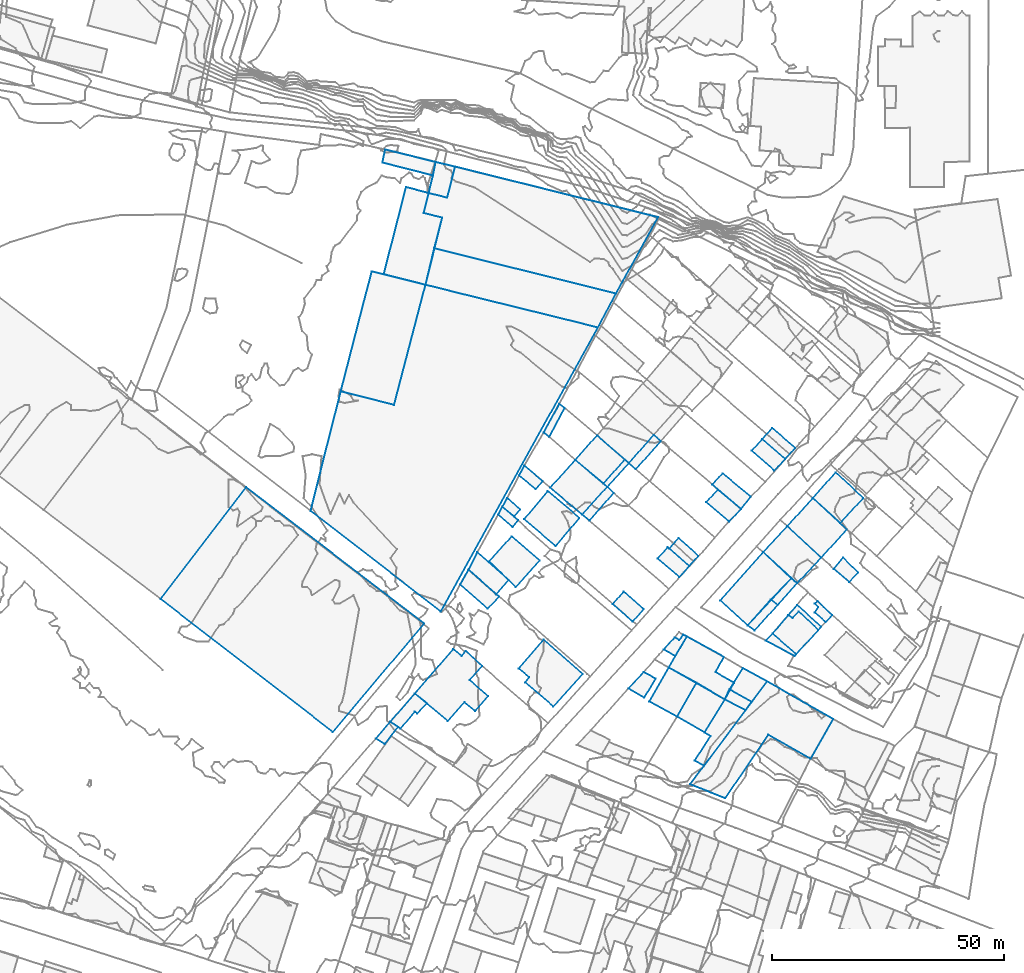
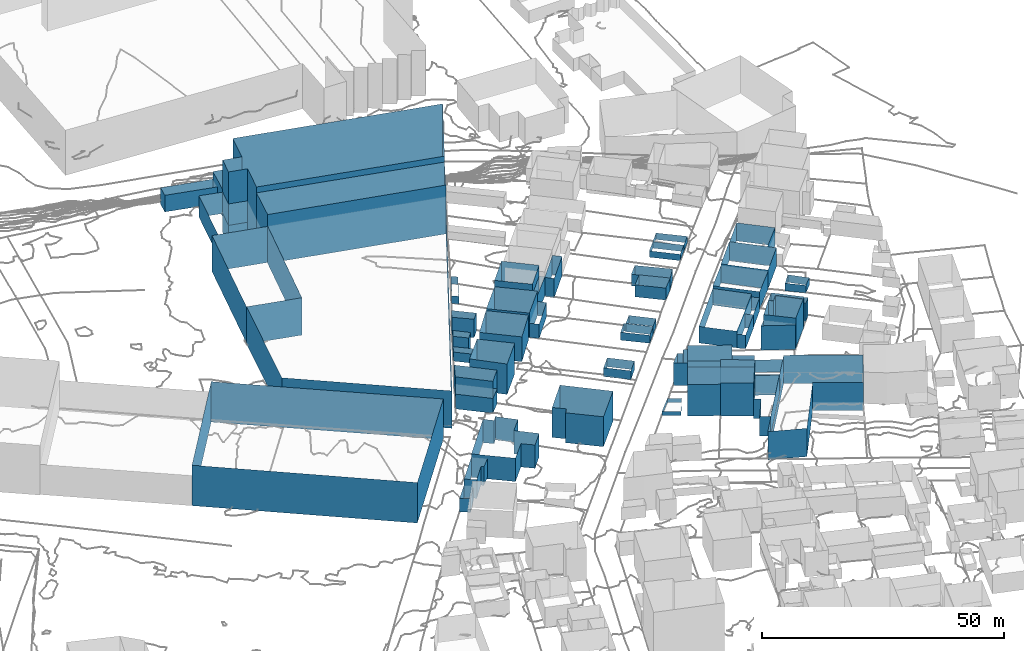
# Not in any storey, part 52 of 419: 52 walls.
"""IFC2X3 model written with IfcOpenShell, lengths in metres."""

from ifc_helpers import new_model, si_unit, frame, origin_with_axes, place, context, subcontext, project, faceted_brep, element, save


model = new_model("IFC2X3")

# Units and contexts
model_context = context("Model", 3, precision=1e-05, world=origin_with_axes())
body_context = subcontext(model_context, "Body", "Model", "MODEL_VIEW")
ifc_project = project(units=[si_unit("AREAUNIT", "SQUARE_METRE"), si_unit("LENGTHUNIT", "METRE")], contexts=[model_context])

# Walls
wall_1_placement = place(None, frame((943.8920204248, 250.5976909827, 79.4043981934), z_axis=(0.0, 0.0, 1.0), x_axis=(1.0, 0.0, 0.0)))
element("IfcWall", 1, at=wall_1_placement, Name="Mur 0", context=body_context, shape_type="Brep", body=[
    faceted_brep([(0.8999999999, -0.6000000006, 7.3956018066), (0.0, 0.0, 7.3956018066), (0.8999999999, -0.6000000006, 0.0), (0.0, 0.0, 0.0), (2.2, 0.7999999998, 7.3956018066), (2.2, 0.7999999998, 0.0), (6.5, -3.2000000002, 7.3956018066), (6.5, -3.2000000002, 0.0), (7.1, -2.5, 7.3956018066), (7.1, -2.5, 0.0), (1.8999999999, 2.2000000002, 7.3956018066), (1.8999999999, 2.2000000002, 0.0)], [[[0, 1, 2]], [[2, 1, 3]], [[4, 0, 5]], [[5, 0, 2]], [[6, 4, 7]], [[7, 4, 5]], [[8, 6, 9]], [[9, 6, 7]], [[1, 10, 3]], [[3, 10, 11]], [[10, 8, 11]], [[11, 8, 9]]]),
])
wall_2_placement = place(None, frame((909.3920204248, 234.7976909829, 79.4479989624), z_axis=(0.0, 0.0, 1.0), x_axis=(1.0, 0.0, 0.0)))
element("IfcWall", 2, at=wall_2_placement, Name="Mur 0", context=body_context, shape_type="Brep", body=[
    faceted_brep([(0.0, 0.0, 1.0520010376), (3.2999999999, 3.5, 1.0520010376), (0.0, 0.0, 0.0), (3.2999999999, 3.5, 0.0), (3.3999999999, -2.0, 1.0520010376), (3.3999999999, -2.0, 0.0), (5.8999999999, 2.0999999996, 1.0520010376), (5.8999999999, 2.0999999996, 0.0)], [[[0, 1, 2]], [[2, 1, 3]], [[4, 0, 5]], [[5, 0, 2]], [[1, 6, 3]], [[3, 6, 7]], [[6, 4, 7]], [[7, 4, 5]]]),
])
wall_3_placement = place(None, frame((922.6920204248, 214.0976909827, 76.1770995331), z_axis=(0.0, 0.0, 1.0), x_axis=(1.0, 0.0, 0.0)))
element("IfcWall", 3, at=wall_3_placement, Name="Mur 0", context=body_context, shape_type="Brep", body=[
    faceted_brep([(16.6, 22.2000000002, 7.1229004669), (30.9, 14.0999999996, 7.1229004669), (16.6, 22.2000000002, 0.0), (30.9, 14.0999999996, 0.0), (0.0, 0.0, 7.1229004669), (0.0, 0.0, 0.0), (7.6, -3.0, 7.1229004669), (7.6, -3.0, 0.0), (16.9, 10.7000000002, 7.1229004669), (16.9, 10.7000000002, 0.0), (26.0, 5.5, 7.1229004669), (26.0, 5.5, 0.0)], [[[0, 1, 2]], [[2, 1, 3]], [[4, 0, 5]], [[5, 0, 2]], [[6, 4, 7]], [[7, 4, 5]], [[8, 6, 9]], [[9, 6, 7]], [[1, 10, 3]], [[3, 10, 11]], [[10, 8, 11]], [[11, 8, 9]]]),
])
wall_4_placement = place(None, frame((865.1920204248, 337.3976909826, 75.976000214), z_axis=(0.0, 0.0, 1.0), x_axis=(1.0, 0.0, 0.0)))
element("IfcWall", 4, at=wall_4_placement, Name="Mur 0", context=body_context, shape_type="Brep", body=[
    faceted_brep([(0.0, 0.0, 18.223999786), (1.1, 4.2999999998, 18.223999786), (0.0, 0.0, 0.0), (1.1, 4.2999999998, 0.0), (4.0, -1.0, 18.223999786), (4.0, -1.0, 0.0), (2.3, -7.5999999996, 18.223999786), (2.3, -7.5999999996, 0.0), (41.5, -17.4000000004, 18.223999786), (41.5, -17.4000000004, 0.0), (50.6, -0.9000000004, 18.223999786), (50.6, -0.9000000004, 0.0), (6.8, 10.0, 18.223999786), (6.8, 10.0, 0.0), (5.1, 3.2999999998, 18.223999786), (5.1, 3.2999999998, 0.0)], [[[0, 1, 2]], [[2, 1, 3]], [[4, 0, 5]], [[5, 0, 2]], [[6, 4, 7]], [[7, 4, 5]], [[8, 6, 9]], [[9, 6, 7]], [[10, 8, 11]], [[11, 8, 9]], [[12, 10, 13]], [[13, 10, 11]], [[1, 14, 3]], [[3, 14, 15]], [[14, 12, 15]], [[15, 12, 13]]]),
])
wall_5_placement = place(None, frame((885.6920204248, 239.0976909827, 79.6380020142), z_axis=(0.0, 0.0, 1.0), x_axis=(1.0, 0.0, 0.0)))
element("IfcWall", 5, at=wall_5_placement, Name="Mur 0", context=body_context, shape_type="Brep", body=[
    faceted_brep([(0.0, 0.0, 7.5619979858), (5.4, 6.2000000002, 7.5619979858), (0.0, 0.0, 0.0), (5.4, 6.2000000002, 0.0), (2.3, -1.9000000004, 7.5619979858), (2.3, -1.9000000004, 0.0), (1.4, -3.0, 7.5619979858), (1.4, -3.0, 0.0), (7.5, -8.2000000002, 7.5619979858), (7.5, -8.2000000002, 0.0), (13.8, -1.2000000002, 7.5619979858), (13.8, -1.2000000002, 0.0)], [[[0, 1, 2]], [[2, 1, 3]], [[4, 0, 5]], [[5, 0, 2]], [[6, 4, 7]], [[7, 4, 5]], [[8, 6, 9]], [[9, 6, 7]], [[1, 10, 3]], [[3, 10, 11]], [[10, 8, 11]], [[11, 8, 9]]]),
])
wall_6_placement = place(None, frame((915.6920204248, 262.7976909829, 79.3039978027), z_axis=(0.0, 0.0, 1.0), x_axis=(1.0, 0.0, 0.0)))
element("IfcWall", 6, at=wall_6_placement, Name="Mur 0", context=body_context, shape_type="Brep", body=[
    faceted_brep([(2.2000000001, 2.5, 1.9960021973), (6.8, -1.6000000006, 1.9960021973), (2.2000000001, 2.5, 0.0), (6.8, -1.6000000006, 0.0), (0.0, 0.0, 1.9960021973), (0.0, 0.0, 0.0), (4.7000000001, -4.0, 1.9960021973), (4.7000000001, -4.0, 0.0)], [[[0, 1, 2]], [[2, 1, 3]], [[4, 0, 5]], [[5, 0, 2]], [[1, 6, 3]], [[3, 6, 7]], [[6, 4, 7]], [[7, 4, 5]]]),
])
wall_7_placement = place(None, frame((935.9920204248, 286.0976909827, 79.0081993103), z_axis=(0.0, 0.0, 1.0), x_axis=(1.0, 0.0, 0.0)))
element("IfcWall", 7, at=wall_7_placement, Name="Mur 0", context=body_context, shape_type="Brep", body=[
    faceted_brep([(2.2999999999, 2.5, 1.5918006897), (7.2, -1.7999999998, 1.5918006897), (2.2999999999, 2.5, 0.0), (7.2, -1.7999999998, 0.0), (0.0, 0.0, 1.5918006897), (0.0, 0.0, 0.0), (4.9, -4.2999999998, 1.5918006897), (4.9, -4.2999999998, 0.0)], [[[0, 1, 2]], [[2, 1, 3]], [[4, 0, 5]], [[5, 0, 2]], [[1, 6, 3]], [[3, 6, 7]], [[6, 4, 7]], [[7, 4, 5]]]),
])
wall_8_placement = place(None, frame((857.9920204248, 227.5976909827, 81.0899978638), z_axis=(0.0, 0.0, 1.0), x_axis=(1.0, 0.0, 0.0)))
element("IfcWall", 8, at=wall_8_placement, Name="Mur 0", context=body_context, shape_type="Brep", body=[
    faceted_brep([(5.2999999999, 6.0999999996, 4.7100021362), (7.9, 4.0, 4.7100021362), (5.2999999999, 6.0999999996, 0.0), (7.9, 4.0, 0.0), (0.0, 0.0, 4.7100021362), (0.0, 0.0, 0.0), (2.2, -1.5, 4.7100021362), (2.2, -1.5, 0.0), (5.2999999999, 2.2000000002, 4.7100021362), (5.2999999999, 2.2000000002, 0.0), (5.7999999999, 1.7999999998, 4.7100021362), (5.7999999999, 1.7999999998, 0.0)], [[[0, 1, 2]], [[2, 1, 3]], [[4, 0, 5]], [[5, 0, 2]], [[6, 4, 7]], [[7, 4, 5]], [[8, 6, 9]], [[9, 6, 7]], [[1, 10, 3]], [[3, 10, 11]], [[10, 8, 11]], [[11, 8, 9]]]),
])
wall_9_placement = place(None, frame((873.0920204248, 257.1976909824, 80.2699981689), z_axis=(0.0, 0.0, 1.0), x_axis=(1.0, 0.0, 0.0)))
element("IfcWall", 9, at=wall_9_placement, Name="Mur 0", context=body_context, shape_type="Brep", body=[
    faceted_brep([(0.0, 0.0, 3.7300018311), (1.8, 3.2000000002, 3.7300018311), (0.0, 0.0, 0.0), (1.8, 3.2000000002, 0.0), (5.9, -5.2000000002, 3.7300018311), (5.9, -5.2000000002, 0.0), (8.4, -2.5999999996, 3.7300018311), (8.4, -2.5999999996, 0.0)], [[[0, 1, 2]], [[2, 1, 3]], [[4, 0, 5]], [[5, 0, 2]], [[1, 6, 3]], [[3, 6, 7]], [[6, 4, 7]], [[7, 4, 5]]]),
])
wall_10_placement = place(None, frame((808.3920204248, 254.0976909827, 80.3899993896), z_axis=(0.0, 0.0, 1.0), x_axis=(1.0, 0.0, 0.0)))
element("IfcWall", 10, at=wall_10_placement, Name="Mur 0", context=body_context, shape_type="Brep", body=[
    faceted_brep([(0.0, 0.0, 10.2100006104), (18.5, 24.0999999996, 10.2100006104), (0.0, 0.0, 0.0), (18.5, 24.0999999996, 0.0), (37.2, -28.7000000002, 10.2100006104), (37.2, -28.7000000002, 0.0), (56.8999999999, -5.2999999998, 10.2100006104), (56.8999999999, -5.2999999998, 0.0)], [[[0, 1, 2]], [[2, 1, 3]], [[4, 0, 5]], [[5, 0, 2]], [[1, 6, 3]], [[3, 6, 7]], [[6, 4, 7]], [[7, 4, 5]]]),
])
wall_11_placement = place(None, frame((938.9920204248, 245.0976909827, 79.3228012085), z_axis=(0.0, 0.0, 1.0), x_axis=(1.0, 0.0, 0.0)))
element("IfcWall", 11, at=wall_11_placement, Name="Mur 0", context=body_context, shape_type="Brep", body=[
    faceted_brep([(6.2999999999, -3.2999999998, 6.1771987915), (0.0, 0.0, 6.1771987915), (6.2999999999, -3.2999999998, 0.0), (0.0, 0.0, 0.0), (6.6, -2.9000000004, 6.1771987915), (6.6, -2.9000000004, 0.0), (1.5, 1.5, 6.1771987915), (1.5, 1.5, 0.0)], [[[0, 1, 2]], [[2, 1, 3]], [[4, 0, 5]], [[5, 0, 2]], [[1, 6, 3]], [[3, 6, 7]], [[6, 4, 7]], [[7, 4, 5]]]),
])
wall_12_placement = place(None, frame((913.8920204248, 231.9976909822, 79.4660003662), z_axis=(0.0, 0.0, 1.0), x_axis=(1.0, 0.0, 0.0)))
element("IfcWall", 12, at=wall_12_placement, Name="Mur 0", context=body_context, shape_type="Brep", body=[
    faceted_brep([(10.2, 4.0, 7.9339996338), (6.0, -3.2999999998, 7.9339996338), (10.2, 4.0, 0.0), (6.0, -3.2999999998, 0.0), (4.2, 7.3000000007, 7.9339996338), (4.2, 7.3000000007, 0.0), (0.0, 0.0, 7.9339996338), (0.0, 0.0, 0.0)], [[[0, 1, 2]], [[2, 1, 3]], [[4, 0, 5]], [[5, 0, 2]], [[1, 6, 3]], [[3, 6, 7]], [[6, 4, 7]], [[7, 4, 5]]]),
])
wall_13_placement = place(None, frame((949.1920204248, 275.8976909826, 79.6199989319), z_axis=(0.0, 0.0, 1.0), x_axis=(1.0, 0.0, 0.0)))
element("IfcWall", 13, at=wall_13_placement, Name="Mur 0", context=body_context, shape_type="Brep", body=[
    faceted_brep([(5.9, -5.4000000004, 4.5800010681), (0.0, 0.0, 4.5800010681), (5.9, -5.4000000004, 0.0), (0.0, 0.0, 0.0), (10.9, 0.0, 4.5800010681), (10.9, 0.0, 0.0), (4.9, 5.5, 4.5800010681), (4.9, 5.5, 0.0)], [[[0, 1, 2]], [[2, 1, 3]], [[4, 0, 5]], [[5, 0, 2]], [[1, 6, 3]], [[3, 6, 7]], [[6, 4, 7]], [[7, 4, 5]]]),
])
wall_14_placement = place(None, frame((865.5920204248, 321.8976909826, 80.3578001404), z_axis=(0.0, 0.0, 1.0), x_axis=(1.0, 0.0, 0.0)))
element("IfcWall", 14, at=wall_14_placement, Name="Mur 0", context=body_context, shape_type="Brep", body=[
    faceted_brep([(0.0, 0.0, 12.3421998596), (1.9, 7.9000000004, 12.3421998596), (0.0, 0.0, 0.0), (1.9, 7.9000000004, 0.0), (37.2, -9.2000000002, 12.3421998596), (37.2, -9.2000000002, 0.0), (41.1, -1.9000000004, 12.3421998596), (41.1, -1.9000000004, 0.0)], [[[0, 1, 2]], [[2, 1, 3]], [[4, 0, 5]], [[5, 0, 2]], [[1, 6, 3]], [[3, 6, 7]], [[6, 4, 7]], [[7, 4, 5]]]),
])
wall_15_placement = place(None, frame((943.6920204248, 269.7976909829, 79.72599823), z_axis=(0.0, 0.0, 1.0), x_axis=(1.0, 0.0, 0.0)))
element("IfcWall", 15, at=wall_15_placement, Name="Mur 0", context=body_context, shape_type="Brep", body=[
    faceted_brep([(7.3, -6.8000000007, 4.77400177), (0.0, 0.0, 4.77400177), (7.3, -6.8000000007, 0.0), (0.0, 0.0, 0.0), (12.8, -0.7000000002, 4.77400177), (12.8, -0.7000000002, 0.0), (5.5, 6.0999999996, 4.77400177), (5.5, 6.0999999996, 0.0)], [[[0, 1, 2]], [[2, 1, 3]], [[4, 0, 5]], [[5, 0, 2]], [[1, 6, 3]], [[3, 6, 7]], [[6, 4, 7]], [[7, 4, 5]]]),
])
wall_16_placement = place(None, frame((892.4920204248, 278.0976909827, 79.9392015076), z_axis=(0.0, 0.0, 1.0), x_axis=(1.0, 0.0, 0.0)))
element("IfcWall", 16, at=wall_16_placement, Name="Mur 0", context=body_context, shape_type="Brep", body=[
    faceted_brep([(0.0, 0.0, 6.1607984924), (5.4, 6.0, 6.1607984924), (0.0, 0.0, 0.0), (5.4, 6.0, 0.0), (6.9, -5.7999999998, 6.1607984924), (6.9, -5.7999999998, 0.0), (12.2999999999, 0.2000000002, 6.1607984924), (12.2999999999, 0.2000000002, 0.0)], [[[0, 1, 2]], [[2, 1, 3]], [[4, 0, 5]], [[5, 0, 2]], [[1, 6, 3]], [[3, 6, 7]], [[6, 4, 7]], [[7, 4, 5]]]),
])
wall_17_placement = place(None, frame((926.1920204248, 274.9976909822, 79.1666029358), z_axis=(0.0, 0.0, 1.0), x_axis=(1.0, 0.0, 0.0)))
element("IfcWall", 17, at=wall_17_placement, Name="Mur 0", context=body_context, shape_type="Brep", body=[
    faceted_brep([(2.5, 2.7000000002, 3.0333970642), (7.5, -1.5, 3.0333970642), (2.5, 2.7000000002, 0.0), (7.5, -1.5, 0.0), (0.0, 0.0, 3.0333970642), (0.0, 0.0, 0.0), (4.9, -4.1999999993, 3.0333970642), (4.9, -4.1999999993, 0.0)], [[[0, 1, 2]], [[2, 1, 3]], [[4, 0, 5]], [[5, 0, 2]], [[1, 6, 3]], [[3, 6, 7]], [[6, 4, 7]], [[7, 4, 5]]]),
])
wall_18_placement = place(None, frame((935.0920204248, 248.3976909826, 79.2480003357), z_axis=(0.0, 0.0, 1.0), x_axis=(1.0, 0.0, 0.0)))
element("IfcWall", 18, at=wall_18_placement, Name="Mur 0", context=body_context, shape_type="Brep", body=[
    faceted_brep([(1.5, -1.0999999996, 3.4519996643), (0.0, 0.0, 3.4519996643), (1.5, -1.0999999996, 0.0), (0.0, 0.0, 0.0), (6.5, 4.4000000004, 3.4519996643), (6.5, 4.4000000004, 0.0), (5.0, 5.5999999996, 3.4519996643), (5.0, 5.5999999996, 0.0)], [[[0, 1, 2]], [[2, 1, 3]], [[4, 0, 5]], [[5, 0, 2]], [[1, 6, 3]], [[3, 6, 7]], [[6, 4, 7]], [[7, 4, 5]]]),
])
wall_19_placement = place(None, frame((840.7920204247, 273.0976909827, 80.3578001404), z_axis=(0.0, 0.0, 1.0), x_axis=(1.0, 0.0, 0.0)))
element("IfcWall", 19, at=wall_19_placement, Name="Mur 0", context=body_context, shape_type="Brep", body=[
    faceted_brep([(28.1000000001, -21.7000000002, 9.4421998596), (0.0, 0.0, 9.4421998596), (28.1000000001, -21.7000000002, 0.0), (0.0, 0.0, 0.0), (62.0, 39.5999999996, 9.4421998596), (62.0, 39.5999999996, 0.0), (24.8, 48.7999999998, 9.4421998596), (24.8, 48.7999999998, 0.0), (18.0, 22.8999999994, 9.4421998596), (18.0, 22.8999999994, 0.0), (6.5, 25.7999999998, 9.4421998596), (6.5, 25.7999999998, 0.0)], [[[0, 1, 2]], [[2, 1, 3]], [[4, 0, 5]], [[5, 0, 2]], [[6, 4, 7]], [[7, 4, 5]], [[8, 6, 9]], [[9, 6, 7]], [[1, 10, 3]], [[3, 10, 11]], [[10, 8, 11]], [[11, 8, 9]]]),
])
wall_20_placement = place(None, frame((938.2920204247, 288.5976909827, 78.9566001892), z_axis=(0.0, 0.0, 1.0), x_axis=(1.0, 0.0, 0.0)))
element("IfcWall", 20, at=wall_20_placement, Name="Mur 0", context=body_context, shape_type="Brep", body=[
    faceted_brep([(2.1000000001, 2.3999999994, 1.6433998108), (7.1000000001, -1.9000000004, 1.6433998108), (2.1000000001, 2.3999999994, 0.0), (7.1000000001, -1.9000000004, 0.0), (0.0, 0.0, 1.6433998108), (0.0, 0.0, 0.0), (4.9, -4.2999999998, 1.6433998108), (4.9, -4.2999999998, 0.0)], [[[0, 1, 2]], [[2, 1, 3]], [[4, 0, 5]], [[5, 0, 2]], [[1, 6, 3]], [[3, 6, 7]], [[6, 4, 7]], [[7, 4, 5]]]),
])
wall_21_placement = place(None, frame((854.8920204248, 223.9976909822, 80.7520005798), z_axis=(0.0, 0.0, 1.0), x_axis=(1.0, 0.0, 0.0)))
element("IfcWall", 21, at=wall_21_placement, Name="Mur 0", context=body_context, shape_type="Brep", body=[
    faceted_brep([(3.1, 3.6000000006, 3.4479994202), (4.7999999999, 2.5, 3.4479994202), (3.1, 3.6000000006, 0.0), (4.7999999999, 2.5, 0.0), (0.0, 0.0, 3.4479994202), (0.0, 0.0, 0.0), (1.8999999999, -1.1999999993, 3.4479994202), (1.8999999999, -1.1999999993, 0.0)], [[[0, 1, 2]], [[2, 1, 3]], [[4, 0, 5]], [[5, 0, 2]], [[1, 6, 3]], [[3, 6, 7]], [[6, 4, 7]], [[7, 4, 5]]]),
])
wall_22_placement = place(None, frame((930.1920204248, 232.3976909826, 79.1070014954), z_axis=(0.0, 0.0, 1.0), x_axis=(1.0, 0.0, 0.0)))
element("IfcWall", 22, at=wall_22_placement, Name="Mur 0", context=body_context, shape_type="Brep", body=[
    faceted_brep([(1.0, 2.2000000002, 3.1929985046), (5.8, -0.5, 3.1929985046), (1.0, 2.2000000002, 0.0), (5.8, -0.5, 0.0), (0.0, 0.0, 3.1929985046), (0.0, 0.0, 0.0), (4.5, -2.2999999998, 3.1929985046), (4.5, -2.2999999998, 0.0)], [[[0, 1, 2]], [[2, 1, 3]], [[4, 0, 5]], [[5, 0, 2]], [[1, 6, 3]], [[3, 6, 7]], [[6, 4, 7]], [[7, 4, 5]]]),
])
wall_23_placement = place(None, frame((949.5920204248, 251.1976909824, 79.6), z_axis=(0.0, 0.0, 1.0), x_axis=(1.0, 0.0, 0.0)))
element("IfcWall", 23, at=wall_23_placement, Name="Mur 0", context=body_context, shape_type="Brep", body=[
    faceted_brep([(0.0, 1.9000000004, 4.6), (0.6, 2.4000000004, 4.6), (0.0, 1.9000000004, 0.0), (0.6, 2.4000000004, 0.0), (0.8, 1.1000000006, 4.6), (0.8, 1.1000000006, 0.0), (0.0, 0.0, 4.6), (0.0, 0.0, 0.0), (2.4, -2.0999999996, 4.6), (2.4, -2.0999999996, 0.0), (3.8, -0.5999999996, 4.6), (3.8, -0.5999999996, 0.0)], [[[0, 1, 2]], [[2, 1, 3]], [[4, 0, 5]], [[5, 0, 2]], [[6, 4, 7]], [[7, 4, 5]], [[8, 6, 9]], [[9, 6, 7]], [[1, 10, 3]], [[3, 10, 11]], [[10, 8, 11]], [[11, 8, 9]]]),
])
wall_24_placement = place(None, frame((909.4920204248, 283.3976909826, 79.9668006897), z_axis=(0.0, 0.0, 1.0), x_axis=(1.0, 0.0, 0.0)))
element("IfcWall", 24, at=wall_24_placement, Name="Mur 0", context=body_context, shape_type="Brep", body=[
    faceted_brep([(0.0, 0.0, 4.8331993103), (5.2999999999, 6.0999999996, 4.8331993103), (0.0, 0.0, 0.0), (5.2999999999, 6.0999999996, 0.0), (1.5, -1.2999999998, 4.8331993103), (1.5, -1.2999999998, 0.0), (6.9, 4.7999999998, 4.8331993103), (6.9, 4.7999999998, 0.0)], [[[0, 1, 2]], [[2, 1, 3]], [[4, 0, 5]], [[5, 0, 2]], [[1, 6, 3]], [[3, 6, 7]], [[6, 4, 7]], [[7, 4, 5]]]),
])
wall_25_placement = place(None, frame((953.6920204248, 260.5976909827, 79.7878010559), z_axis=(0.0, 0.0, 1.0), x_axis=(1.0, 0.0, 0.0)))
element("IfcWall", 25, at=wall_25_placement, Name="Mur 0", context=body_context, shape_type="Brep", body=[
    faceted_brep([(3.3, -2.7999999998, 1.9121989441), (0.0, 0.0, 1.9121989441), (3.3, -2.7999999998, 0.0), (0.0, 0.0, 0.0), (5.3, -0.7999999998, 1.9121989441), (5.3, -0.7999999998, 0.0), (2.0, 2.3999999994, 1.9121989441), (2.0, 2.3999999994, 0.0)], [[[0, 1, 2]], [[2, 1, 3]], [[4, 0, 5]], [[5, 0, 2]], [[1, 6, 3]], [[3, 6, 7]], [[6, 4, 7]], [[7, 4, 5]]]),
])
wall_26_placement = place(None, frame((899.3920204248, 272.2976909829, 79.9064004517), z_axis=(0.0, 0.0, 1.0), x_axis=(1.0, 0.0, 0.0)))
element("IfcWall", 26, at=wall_26_placement, Name="Mur 0", context=body_context, shape_type="Brep", body=[
    faceted_brep([(0.0, 0.0, 3.5935995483), (5.3999999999, 6.0, 3.5935995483), (0.0, 0.0, 0.0), (5.3999999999, 6.0, 0.0), (1.6, -1.3000000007, 3.5935995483), (1.6, -1.3000000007, 0.0), (6.7999999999, 4.6999999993, 3.5935995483), (6.7999999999, 4.6999999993, 0.0)], [[[0, 1, 2]], [[2, 1, 3]], [[4, 0, 5]], [[5, 0, 2]], [[1, 6, 3]], [[3, 6, 7]], [[6, 4, 7]], [[7, 4, 5]]]),
])
wall_27_placement = place(None, frame((881.2920204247, 272.2976909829, 80.3136010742), z_axis=(0.0, 0.0, 1.0), x_axis=(1.0, 0.0, 0.0)))
element("IfcWall", 27, at=wall_27_placement, Name="Mur 0", context=body_context, shape_type="Brep", body=[
    faceted_brep([(0.0, 0.0, 2.2863989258), (0.9, 1.6999999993, 2.2863989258), (0.0, 0.0, 0.0), (0.9, 1.6999999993, 0.0), (3.1000000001, -2.7000000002, 2.2863989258), (3.1000000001, -2.7000000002, 0.0), (4.3, -1.2000000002, 2.2863989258), (4.3, -1.2000000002, 0.0)], [[[0, 1, 2]], [[2, 1, 3]], [[4, 0, 5]], [[5, 0, 2]], [[1, 6, 3]], [[3, 6, 7]], [[6, 4, 7]], [[7, 4, 5]]]),
])
wall_28_placement = place(None, frame((891.0920204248, 289.9976909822, 80.6671013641), z_axis=(0.0, 0.0, 1.0), x_axis=(1.0, 0.0, 0.0)))
element("IfcWall", 28, at=wall_28_placement, Name="Mur 0", context=body_context, shape_type="Brep", body=[
    faceted_brep([(0.0, 0.0, 1.9328986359), (3.4, 6.2000000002, 1.9328986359), (0.0, 0.0, 0.0), (3.4, 6.2000000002, 0.0), (1.2, -0.8999999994, 1.9328986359), (1.2, -0.8999999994, 0.0), (4.5, 5.3000000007, 1.9328986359), (4.5, 5.3000000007, 0.0)], [[[0, 1, 2]], [[2, 1, 3]], [[4, 0, 5]], [[5, 0, 2]], [[1, 6, 3]], [[3, 6, 7]], [[6, 4, 7]], [[7, 4, 5]]]),
])
wall_29_placement = place(None, frame((885.7920204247, 280.6976909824, 80.0627999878), z_axis=(0.0, 0.0, 1.0), x_axis=(1.0, 0.0, 0.0)))
element("IfcWall", 29, at=wall_29_placement, Name="Mur 0", context=body_context, shape_type="Brep", body=[
    faceted_brep([(0.0, 0.0, 4.6372000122), (1.1000000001, 2.2000000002, 4.6372000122), (0.0, 0.0, 0.0), (1.1000000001, 2.2000000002, 0.0), (3.6000000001, -2.8999999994, 4.6372000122), (3.6000000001, -2.8999999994, 0.0), (5.1000000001, -1.2000000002, 4.6372000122), (5.1000000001, -1.2000000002, 0.0)], [[[0, 1, 2]], [[2, 1, 3]], [[4, 0, 5]], [[5, 0, 2]], [[1, 6, 3]], [[3, 6, 7]], [[6, 4, 7]], [[7, 4, 5]]]),
])
wall_30_placement = place(None, frame((916.9920204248, 243.1976909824, 79.308001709), z_axis=(0.0, 0.0, 1.0), x_axis=(1.0, 0.0, 0.0)))
element("IfcWall", 30, at=wall_30_placement, Name="Mur 0", context=body_context, shape_type="Brep", body=[
    faceted_brep([(5.0, 2.7999999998, 5.691998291), (2.5, -1.3999999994, 5.691998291), (5.0, 2.7999999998, 0.0), (2.5, -1.3999999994, 0.0), (4.2, 3.2000000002, 5.691998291), (4.2, 3.2000000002, 0.0), (3.4, 2.0, 5.691998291), (3.4, 2.0, 0.0), (2.4, 2.6000000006, 5.691998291), (2.4, 2.6000000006, 0.0), (0.0, 0.0, 5.691998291), (0.0, 0.0, 0.0)], [[[0, 1, 2]], [[2, 1, 3]], [[4, 0, 5]], [[5, 0, 2]], [[6, 4, 7]], [[7, 4, 5]], [[8, 6, 9]], [[9, 6, 7]], [[1, 10, 3]], [[3, 10, 11]], [[10, 8, 11]], [[11, 8, 9]]]),
])
wall_31_placement = place(None, frame((940.0920204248, 253.9976909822, 79.3659988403), z_axis=(0.0, 0.0, 1.0), x_axis=(1.0, 0.0, 0.0)))
element("IfcWall", 31, at=wall_31_placement, Name="Mur 0", context=body_context, shape_type="Brep", body=[
    faceted_brep([(0.0, 0.0, 3.3340011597), (4.4, 4.5, 3.3340011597), (0.0, 0.0, 0.0), (4.4, 4.5, 0.0), (1.5, -1.1999999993, 3.3340011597), (1.5, -1.1999999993, 0.0), (5.7, 3.5, 3.3340011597), (5.7, 3.5, 0.0)], [[[0, 1, 2]], [[2, 1, 3]], [[4, 0, 5]], [[5, 0, 2]], [[1, 6, 3]], [[3, 6, 7]], [[6, 4, 7]], [[7, 4, 5]]]),
])
wall_32_placement = place(None, frame((903.9920204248, 278.9976909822, 80.158001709), z_axis=(0.0, 0.0, 1.0), x_axis=(1.0, 0.0, 0.0)))
element("IfcWall", 32, at=wall_32_placement, Name="Mur 0", context=body_context, shape_type="Brep", body=[
    faceted_brep([(4.6, 5.2000000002, 4.841998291), (5.5, 4.4000000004, 4.841998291), (4.6, 5.2000000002, 0.0), (5.5, 4.4000000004, 0.0), (0.0, 0.0, 4.841998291), (0.0, 0.0, 0.0), (0.7999999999, -0.6999999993, 4.841998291), (0.7999999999, -0.6999999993, 0.0)], [[[0, 1, 2]], [[2, 1, 3]], [[4, 0, 5]], [[5, 0, 2]], [[1, 6, 3]], [[3, 6, 7]], [[6, 4, 7]], [[7, 4, 5]]]),
])
wall_33_placement = place(None, frame((856.5920204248, 324.1976909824, 80.7059997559), z_axis=(0.0, 0.0, 1.0), x_axis=(1.0, 0.0, 0.0)))
element("IfcWall", 33, at=wall_33_placement, Name="Mur 0", context=body_context, shape_type="Brep", body=[
    faceted_brep([(12.6, 12.2000000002, 5.3940002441), (9.0, -2.2999999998, 5.3940002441), (12.6, 12.2000000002, 0.0), (9.0, -2.2999999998, 0.0), (8.6, 13.2000000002, 5.3940002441), (8.6, 13.2000000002, 0.0), (9.7, 17.5, 5.3940002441), (9.7, 17.5, 0.0), (4.8, 18.7999999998, 5.3940002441), (4.8, 18.7999999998, 0.0), (0.0, 0.0, 5.3940002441), (0.0, 0.0, 0.0)], [[[0, 1, 2]], [[2, 1, 3]], [[4, 0, 5]], [[5, 0, 2]], [[6, 4, 7]], [[7, 4, 5]], [[8, 6, 9]], [[9, 6, 7]], [[1, 10, 3]], [[3, 10, 11]], [[10, 8, 11]], [[11, 8, 9]]]),
])
wall_34_placement = place(None, frame((919.8920204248, 228.6976909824, 79.4340026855), z_axis=(0.0, 0.0, 1.0), x_axis=(1.0, 0.0, 0.0)))
element("IfcWall", 34, at=wall_34_placement, Name="Mur 0", context=body_context, shape_type="Brep", body=[
    faceted_brep([(5.8999999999, -3.3999999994, 8.2659973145), (0.0, 0.0, 8.2659973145), (5.8999999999, -3.3999999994, 0.0), (0.0, 0.0, 0.0), (10.2999999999, 3.7000000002, 8.2659973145), (10.2999999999, 3.7000000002, 0.0), (4.2, 7.2999999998, 8.2659973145), (4.2, 7.2999999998, 0.0)], [[[0, 1, 2]], [[2, 1, 3]], [[4, 0, 5]], [[5, 0, 2]], [[1, 6, 3]], [[3, 6, 7]], [[6, 4, 7]], [[7, 4, 5]]]),
])
wall_35_placement = place(None, frame((866.2920204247, 341.6976909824, 79.8180023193), z_axis=(0.0, 0.0, 1.0), x_axis=(1.0, 0.0, 0.0)))
element("IfcWall", 35, at=wall_35_placement, Name="Mur 0", context=body_context, shape_type="Brep", body=[
    faceted_brep([(0.0, 0.0, 6.8819976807), (0.9, 3.7999999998, 6.8819976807), (0.0, 0.0, 0.0), (0.9, 3.7999999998, 0.0), (4.0, -1.0, 6.8819976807), (4.0, -1.0, 0.0), (5.7000000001, 5.7000000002, 6.8819976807), (5.7000000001, 5.7000000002, 0.0), (1.5, 6.7000000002, 6.8819976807), (1.5, 6.7000000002, 0.0)], [[[0, 1, 2]], [[2, 1, 3]], [[4, 0, 5]], [[5, 0, 2]], [[6, 4, 7]], [[7, 4, 5]], [[1, 8, 3]], [[3, 8, 9]], [[8, 6, 9]], [[9, 6, 7]]]),
])
wall_36_placement = place(None, frame((856.2920204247, 348.2976909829, 80.6039993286), z_axis=(0.0, 0.0, 1.0), x_axis=(1.0, 0.0, 0.0)))
element("IfcWall", 36, at=wall_36_placement, Name="Mur 0", context=body_context, shape_type="Brep", body=[
    faceted_brep([(0.0, 0.0, 4.1960006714), (0.6000000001, 2.7999999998, 4.1960006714), (0.0, 0.0, 0.0), (0.6000000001, 2.7999999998, 0.0), (10.9, -2.8000000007, 4.1960006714), (10.9, -2.8000000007, 0.0), (11.5, 0.0999999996, 4.1960006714), (11.5, 0.0999999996, 0.0)], [[[0, 1, 2]], [[2, 1, 3]], [[4, 0, 5]], [[5, 0, 2]], [[1, 6, 3]], [[3, 6, 7]], [[6, 4, 7]], [[7, 4, 5]]]),
])
wall_37_placement = place(None, frame((874.8920204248, 260.3976909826, 80.0907972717), z_axis=(0.0, 0.0, 1.0), x_axis=(1.0, 0.0, 0.0)))
element("IfcWall", 37, at=wall_37_placement, Name="Mur 0", context=body_context, shape_type="Brep", body=[
    faceted_brep([(0.0, 0.0, 5.7092027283), (1.8999999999, 3.7999999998, 5.7092027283), (0.0, 0.0, 0.0), (1.8999999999, 3.7999999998, 0.0), (5.8999999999, -5.2999999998, 5.7092027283), (5.8999999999, -5.2999999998, 0.0), (8.6, -2.2000000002, 5.7092027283), (8.6, -2.2000000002, 0.0)], [[[0, 1, 2]], [[2, 1, 3]], [[4, 0, 5]], [[5, 0, 2]], [[1, 6, 3]], [[3, 6, 7]], [[6, 4, 7]], [[7, 4, 5]]]),
])
wall_38_placement = place(None, frame((940.4920204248, 246.5976909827, 79.3300018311), z_axis=(0.0, 0.0, 1.0), x_axis=(1.0, 0.0, 0.0)))
element("IfcWall", 38, at=wall_38_placement, Name="Mur 0", context=body_context, shape_type="Brep", body=[
    faceted_brep([(5.1, -4.4000000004, 7.5699981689), (0.0, 0.0, 7.5699981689), (5.1, -4.4000000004, 0.0), (0.0, 0.0, 0.0), (9.9, 0.7999999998, 7.5699981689), (9.9, 0.7999999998, 0.0), (5.6, 4.7999999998, 7.5699981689), (5.6, 4.7999999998, 0.0), (4.2999999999, 3.3999999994, 7.5699981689), (4.2999999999, 3.3999999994, 0.0), (3.4, 4.0, 7.5699981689), (3.4, 4.0, 0.0)], [[[0, 1, 2]], [[2, 1, 3]], [[4, 0, 5]], [[5, 0, 2]], [[6, 4, 7]], [[7, 4, 5]], [[8, 6, 9]], [[9, 6, 7]], [[1, 10, 3]], [[3, 10, 11]], [[10, 8, 11]], [[11, 8, 9]]]),
])
wall_39_placement = place(None, frame((882.1920204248, 273.9976909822, 80.2499984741), z_axis=(0.0, 0.0, 1.0), x_axis=(1.0, 0.0, 0.0)))
element("IfcWall", 39, at=wall_39_placement, Name="Mur 0", context=body_context, shape_type="Brep", body=[
    faceted_brep([(0.0, 0.0, 4.9500015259), (1.0, 1.9000000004, 4.9500015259), (0.0, 0.0, 0.0), (1.0, 1.9000000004, 0.0), (2.5, -2.0999999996, 4.9500015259), (2.5, -2.0999999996, 0.0), (3.8, -0.5999999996, 4.9500015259), (3.8, -0.5999999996, 0.0)], [[[0, 1, 2]], [[2, 1, 3]], [[4, 0, 5]], [[5, 0, 2]], [[1, 6, 3]], [[3, 6, 7]], [[6, 4, 7]], [[7, 4, 5]]]),
])
wall_40_placement = place(None, frame((931.1920204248, 234.5976909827, 79.0538980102), z_axis=(0.0, 0.0, 1.0), x_axis=(1.0, 0.0, 0.0)))
element("IfcWall", 40, at=wall_40_placement, Name="Mur 0", context=body_context, shape_type="Brep", body=[
    faceted_brep([(2.9, 4.5999999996, 3.1461019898), (8.1, 1.7000000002, 3.1461019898), (2.9, 4.5999999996, 0.0), (8.1, 1.7000000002, 0.0), (0.0, 0.0, 3.1461019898), (0.0, 0.0, 0.0), (4.8, -2.7000000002, 3.1461019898), (4.8, -2.7000000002, 0.0)], [[[0, 1, 2]], [[2, 1, 3]], [[4, 0, 5]], [[5, 0, 2]], [[1, 6, 3]], [[3, 6, 7]], [[6, 4, 7]], [[7, 4, 5]]]),
])
wall_41_placement = place(None, frame((918.0920204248, 239.2976909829, 79.3015979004), z_axis=(0.0, 0.0, 1.0), x_axis=(1.0, 0.0, 0.0)))
element("IfcWall", 41, at=wall_41_placement, Name="Mur 0", context=body_context, shape_type="Brep", body=[
    faceted_brep([(14.1, -3.3000000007, 6.5984020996), (12.1, -6.9000000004, 6.5984020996), (14.1, -3.3000000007, 0.0), (12.1, -6.9000000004, 0.0), (10.1, -1.0, 6.5984020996), (10.1, -1.0, 0.0), (11.9, 2.2999999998, 6.5984020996), (11.9, 2.2999999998, 0.0), (3.9, 6.6999999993, 6.5984020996), (3.9, 6.6999999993, 0.0), (0.0, 0.0, 6.5984020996), (0.0, 0.0, 0.0)], [[[0, 1, 2]], [[2, 1, 3]], [[4, 0, 5]], [[5, 0, 2]], [[6, 4, 7]], [[7, 4, 5]], [[8, 6, 9]], [[9, 6, 7]], [[1, 10, 3]], [[3, 10, 11]], [[10, 8, 11]], [[11, 8, 9]]]),
])
wall_42_placement = place(None, frame((923.6920204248, 219.1976909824, 78.7404975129), z_axis=(0.0, 0.0, 1.0), x_axis=(1.0, 0.0, 0.0)))
element("IfcWall", 42, at=wall_42_placement, Name="Mur 0", context=body_context, shape_type="Brep", body=[
    faceted_brep([(11.0, 10.9000000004, 4.9595024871), (2.0, -1.0999999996, 4.9595024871), (11.0, 10.9000000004, 0.0), (2.0, -1.0999999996, 0.0), (6.5, 13.2000000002, 4.9595024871), (6.5, 13.2000000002, 0.0), (2.1, 6.1000000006, 4.9595024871), (2.1, 6.1000000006, 0.0), (3.4, 5.2999999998, 4.9595024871), (3.4, 5.2999999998, 0.0), (0.0, 0.0, 4.9595024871), (0.0, 0.0, 0.0)], [[[0, 1, 2]], [[2, 1, 3]], [[4, 0, 5]], [[5, 0, 2]], [[6, 4, 7]], [[7, 4, 5]], [[8, 6, 9]], [[9, 6, 7]], [[1, 10, 3]], [[3, 10, 11]], [[10, 8, 11]], [[11, 8, 9]]]),
])
wall_43_placement = place(None, frame((938.4920204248, 264.1976909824, 79.72599823), z_axis=(0.0, 0.0, 1.0), x_axis=(1.0, 0.0, 0.0)))
element("IfcWall", 43, at=wall_43_placement, Name="Mur 0", context=body_context, shape_type="Brep", body=[
    faceted_brep([(7.2999999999, -6.7000000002, 4.47400177), (0.0, 0.0, 4.47400177), (7.2999999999, -6.7000000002, 0.0), (0.0, 0.0, 0.0), (12.5, -1.2000000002, 4.47400177), (12.5, -1.2000000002, 0.0), (5.2, 5.6000000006, 4.47400177), (5.2, 5.6000000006, 0.0)], [[[0, 1, 2]], [[2, 1, 3]], [[4, 0, 5]], [[5, 0, 2]], [[1, 6, 3]], [[3, 6, 7]], [[6, 4, 7]], [[7, 4, 5]]]),
])
wall_44_placement = place(None, frame((929.1920204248, 253.7976909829, 79.3199996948), z_axis=(0.0, 0.0, 1.0), x_axis=(1.0, 0.0, 0.0)))
element("IfcWall", 44, at=wall_44_placement, Name="Mur 0", context=body_context, shape_type="Brep", body=[
    faceted_brep([(0.0, 0.0, 4.1800003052), (9.3, 10.3999999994, 4.1800003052), (0.0, 0.0, 0.0), (9.3, 10.3999999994, 0.0), (5.9, -5.4000000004, 4.1800003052), (5.9, -5.4000000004, 0.0), (15.3, 4.6999999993, 4.1800003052), (15.3, 4.6999999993, 0.0)], [[[0, 1, 2]], [[2, 1, 3]], [[4, 0, 5]], [[5, 0, 2]], [[1, 6, 3]], [[3, 6, 7]], [[6, 4, 7]], [[7, 4, 5]]]),
])
wall_45_placement = place(None, frame((897.8920204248, 284.0976909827, 80.158001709), z_axis=(0.0, 0.0, 1.0), x_axis=(1.0, 0.0, 0.0)))
element("IfcWall", 45, at=wall_45_placement, Name="Mur 0", context=body_context, shape_type="Brep", body=[
    faceted_brep([(0.0, 0.0, 7.541998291), (4.7, 5.2999999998, 7.541998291), (0.0, 0.0, 0.0), (4.7, 5.2999999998, 0.0), (6.1, -5.1000000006, 7.541998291), (6.1, -5.1000000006, 0.0), (10.7, 0.0999999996, 7.541998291), (10.7, 0.0999999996, 0.0)], [[[0, 1, 2]], [[2, 1, 3]], [[4, 0, 5]], [[5, 0, 2]], [[1, 6, 3]], [[3, 6, 7]], [[6, 4, 7]], [[7, 4, 5]]]),
])
wall_46_placement = place(None, frame((886.8920204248, 271.2976909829, 79.9304003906), z_axis=(0.0, 0.0, 1.0), x_axis=(1.0, 0.0, 0.0)))
element("IfcWall", 46, at=wall_46_placement, Name="Mur 0", context=body_context, shape_type="Brep", body=[
    faceted_brep([(11.8999999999, 0.2999999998, 6.2695996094), (6.7999999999, -5.8000000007, 6.2695996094), (11.8999999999, 0.2999999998, 0.0), (6.7999999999, -5.8000000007, 0.0), (5.1, 6.0999999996, 6.2695996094), (5.1, 6.0999999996, 0.0), (0.0, 0.0, 6.2695996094), (0.0, 0.0, 0.0)], [[[0, 1, 2]], [[2, 1, 3]], [[4, 0, 5]], [[5, 0, 2]], [[1, 6, 3]], [[3, 6, 7]], [[6, 4, 7]], [[7, 4, 5]]]),
])
wall_47_placement = place(None, frame((847.2920204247, 298.8976909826, 80.5991983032), z_axis=(0.0, 0.0, 1.0), x_axis=(1.0, 0.0, 0.0)))
element("IfcWall", 47, at=wall_47_placement, Name="Mur 0", context=body_context, shape_type="Brep", body=[
    faceted_brep([(11.5, -2.9000000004, 9.1008016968), (0.0, 0.0, 9.1008016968), (11.5, -2.9000000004, 0.0), (0.0, 0.0, 0.0), (18.3, 23.0, 9.1008016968), (18.3, 23.0, 0.0), (6.7000000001, 25.9000000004, 9.1008016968), (6.7000000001, 25.9000000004, 0.0)], [[[0, 1, 2]], [[2, 1, 3]], [[4, 0, 5]], [[5, 0, 2]], [[1, 6, 3]], [[3, 6, 7]], [[6, 4, 7]], [[7, 4, 5]]]),
])
wall_48_placement = place(None, frame((879.2920204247, 262.1976909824, 80.0089987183), z_axis=(0.0, 0.0, 1.0), x_axis=(1.0, 0.0, 0.0)))
element("IfcWall", 48, at=wall_48_placement, Name="Mur 0", context=body_context, shape_type="Brep", body=[
    faceted_brep([(5.8, -5.5, 7.6910012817), (0.0, 0.0, 7.6910012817), (5.8, -5.5, 0.0), (0.0, 0.0, 0.0), (10.9, 0.2000000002, 7.6910012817), (10.9, 0.2000000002, 0.0), (4.9, 5.4000000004, 7.6910012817), (4.9, 5.4000000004, 0.0)], [[[0, 1, 2]], [[2, 1, 3]], [[4, 0, 5]], [[5, 0, 2]], [[1, 6, 3]], [[3, 6, 7]], [[6, 4, 7]], [[7, 4, 5]]]),
])
wall_49_placement = place(None, frame((927.4920204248, 278.7976909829, 79.1666029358), z_axis=(0.0, 0.0, 1.0), x_axis=(1.0, 0.0, 0.0)))
element("IfcWall", 49, at=wall_49_placement, Name="Mur 0", context=body_context, shape_type="Brep", body=[
    faceted_brep([(2.2, 2.3999999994, 2.9333970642), (8.2999999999, -2.6000000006, 2.9333970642), (2.2, 2.3999999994, 0.0), (8.2999999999, -2.6000000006, 0.0), (0.0, 0.0, 2.9333970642), (0.0, 0.0, 0.0), (6.2, -5.3000000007, 2.9333970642), (6.2, -5.3000000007, 0.0)], [[[0, 1, 2]], [[2, 1, 3]], [[4, 0, 5]], [[5, 0, 2]], [[1, 6, 3]], [[3, 6, 7]], [[6, 4, 7]], [[7, 4, 5]]]),
])
wall_50_placement = place(None, frame((918.1920204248, 264.9976909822, 79.2470031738), z_axis=(0.0, 0.0, 1.0), x_axis=(1.0, 0.0, 0.0)))
element("IfcWall", 50, at=wall_50_placement, Name="Mur 0", context=body_context, shape_type="Brep", body=[
    faceted_brep([(2.0, 2.2000000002, 2.0529968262), (6.3, -1.5999999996, 2.0529968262), (2.0, 2.2000000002, 0.0), (6.3, -1.5999999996, 0.0), (0.0, 0.0, 2.0529968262), (0.0, 0.0, 0.0), (4.3, -3.7999999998, 2.0529968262), (4.3, -3.7999999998, 0.0)], [[[0, 1, 2]], [[2, 1, 3]], [[4, 0, 5]], [[5, 0, 2]], [[1, 6, 3]], [[3, 6, 7]], [[6, 4, 7]], [[7, 4, 5]]]),
])
wall_51_placement = place(None, frame((905.9920204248, 252.9976909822, 79.4715997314), z_axis=(0.0, 0.0, 1.0), x_axis=(1.0, 0.0, 0.0)))
element("IfcWall", 51, at=wall_51_placement, Name="Mur 0", context=body_context, shape_type="Brep", body=[
    faceted_brep([(6.7, -1.0999999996, 2.2284002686), (4.2999999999, -3.7999999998, 2.2284002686), (6.7, -1.0999999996, 0.0), (4.2999999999, -3.7999999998, 0.0), (2.4, 2.7000000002, 2.2284002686), (2.4, 2.7000000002, 0.0), (0.0, 0.0, 2.2284002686), (0.0, 0.0, 0.0)], [[[0, 1, 2]], [[2, 1, 3]], [[4, 0, 5]], [[5, 0, 2]], [[1, 6, 3]], [[3, 6, 7]], [[6, 4, 7]], [[7, 4, 5]]]),
])
wall_52_placement = place(None, frame((863.2920204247, 233.6976909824, 80.7084017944), z_axis=(0.0, 0.0, 1.0), x_axis=(1.0, 0.0, 0.0)))
element("IfcWall", 52, at=wall_52_placement, Name="Mur 0", context=body_context, shape_type="Brep", body=[
    faceted_brep([(11.0, 9.2000000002, 5.8915982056), (14.5, 5.9000000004, 5.8915982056), (11.0, 9.2000000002, 0.0), (14.5, 5.9000000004, 0.0), (10.1000000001, 8.1000000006, 5.8915982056), (10.1000000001, 8.1000000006, 0.0), (8.3, 9.6000000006, 5.8915982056), (8.3, 9.6000000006, 0.0), (0.0, 0.0, 5.8915982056), (0.0, 0.0, 0.0), (7.1000000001, -5.8999999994, 5.8915982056), (7.1000000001, -5.8999999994, 0.0), (10.7000000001, -1.8999999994, 5.8915982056), (10.7000000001, -1.8999999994, 0.0), (13.0, -3.7999999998, 5.8915982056), (13.0, -3.7999999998, 0.0), (15.8, -0.5999999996, 5.8915982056), (15.8, -0.5999999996, 0.0), (11.8, 2.9000000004, 5.8915982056), (11.8, 2.9000000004, 0.0)], [[[0, 1, 2]], [[2, 1, 3]], [[4, 0, 5]], [[5, 0, 2]], [[6, 4, 7]], [[7, 4, 5]], [[8, 6, 9]], [[9, 6, 7]], [[10, 8, 11]], [[11, 8, 9]], [[12, 10, 13]], [[13, 10, 11]], [[14, 12, 15]], [[15, 12, 13]], [[16, 14, 17]], [[17, 14, 15]], [[1, 18, 3]], [[3, 18, 19]], [[18, 16, 19]], [[19, 16, 17]]]),
])

save(model, "model.ifc")
